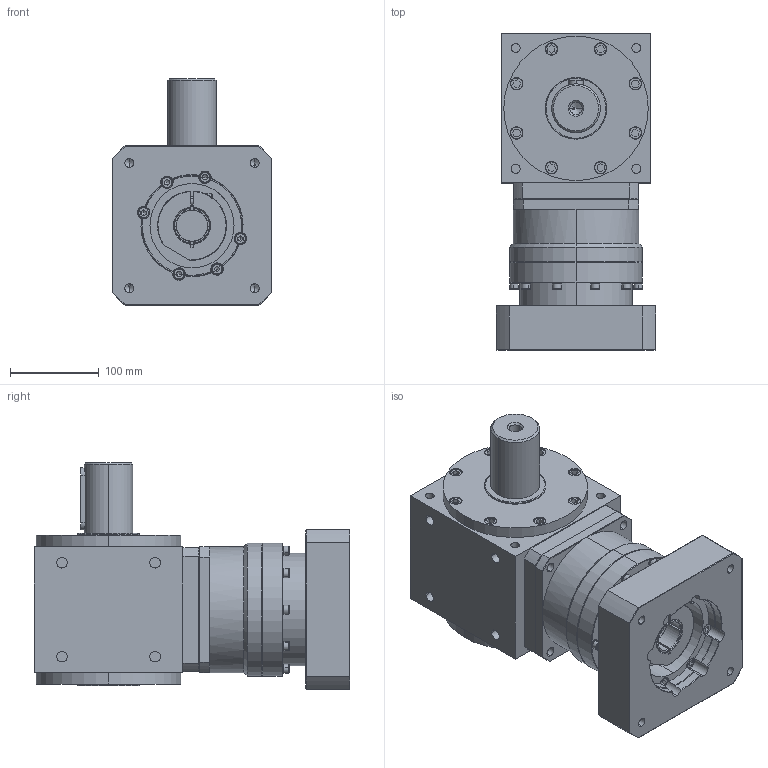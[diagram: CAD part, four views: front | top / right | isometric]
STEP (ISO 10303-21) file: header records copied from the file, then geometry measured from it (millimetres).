
FILE_DESCRIPTION (( 'STEP AP203' ), '1' );
FILE_NAME ('AAW165AS-L1-P 35-114.3-200-M12.STEP', '2024-12-16T09:06:43', ( '' ), ( '' ), 'SwSTEP 2.0', 'SolidWorks 2021', '' );
FILE_SCHEMA (( 'CONFIG_CONTROL_DESIGN' ));
Length unit declared in the file: millimetre
Products named in the file (3): AAW165AS-P; AAW165AS-L1-P 35-114.3-200-M12; VRB-142-L1-S2-P1 35-114.3-200-M12
Assembly tree (2 placements, depth 2):
  AAW165AS-L1-P 35-114.3-200-M12
    AAW165AS-P
    VRB-142-L1-S2-P1 35-114.3-200-M12
Bounding box: 180 x 356.5 x 256 mm (x, y, z)
Volume: 8472776.6 mm3; surface area: 562168.5 mm2
Topology: 40 solids, 40 shells, 1379 faces, 3272 edges, 2052 vertices
Faces by surface type: plane 645, cylinder 505, cone 189, torus 38, bspline 2
Entity records: 40220 total; most frequent: CARTESIAN_POINT 7541, DIRECTION 7193, ORIENTED_EDGE 6408, EDGE_CURVE 3204, AXIS2_PLACEMENT_3D 2782, VERTEX_POINT 2052, VECTOR 1629, LINE 1629
